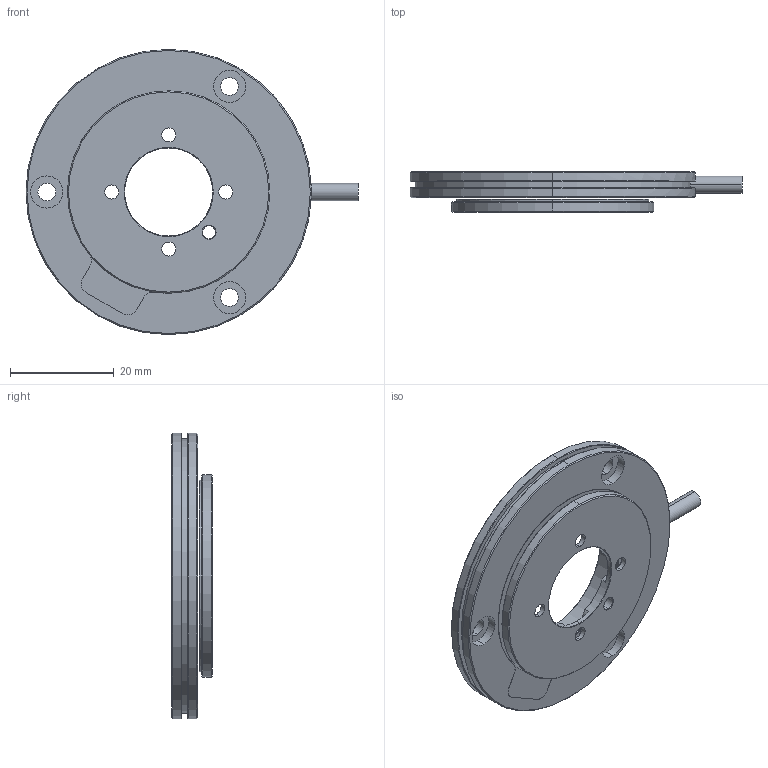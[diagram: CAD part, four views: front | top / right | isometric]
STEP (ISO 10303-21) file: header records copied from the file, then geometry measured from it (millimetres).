
FILE_DESCRIPTION (( 'STEP AP214' ), '1' );
FILE_NAME ('GMI-ROT-055-A11-K0x-ST_rev01.STEP', '2023-11-08T08:39:43', ( '' ), ( '' ), 'SwSTEP 2.0', 'SolidWorks 2021', '' );
FILE_SCHEMA (( 'AUTOMOTIVE_DESIGN' ));
Length unit declared in the file: millimetre
Products named in the file (1): GMI-ROT-055-A11-K0x-ST_rev01
Bounding box: 64 x 7.8 x 55 mm (x, y, z)
Volume: 10459.7 mm3; surface area: 12689 mm2
Topology: 6 solids, 6 shells, 232 faces, 556 edges, 349 vertices
Faces by surface type: cylinder 119, cone 58, plane 55
Entity records: 9532 total; most frequent: DIRECTION 1315, CARTESIAN_POINT 1208, ORIENTED_EDGE 1112, EDGE_CURVE 556, AXIS2_PLACEMENT_3D 540, VERTEX_POINT 349, CIRCLE 307, EDGE_LOOP 271
